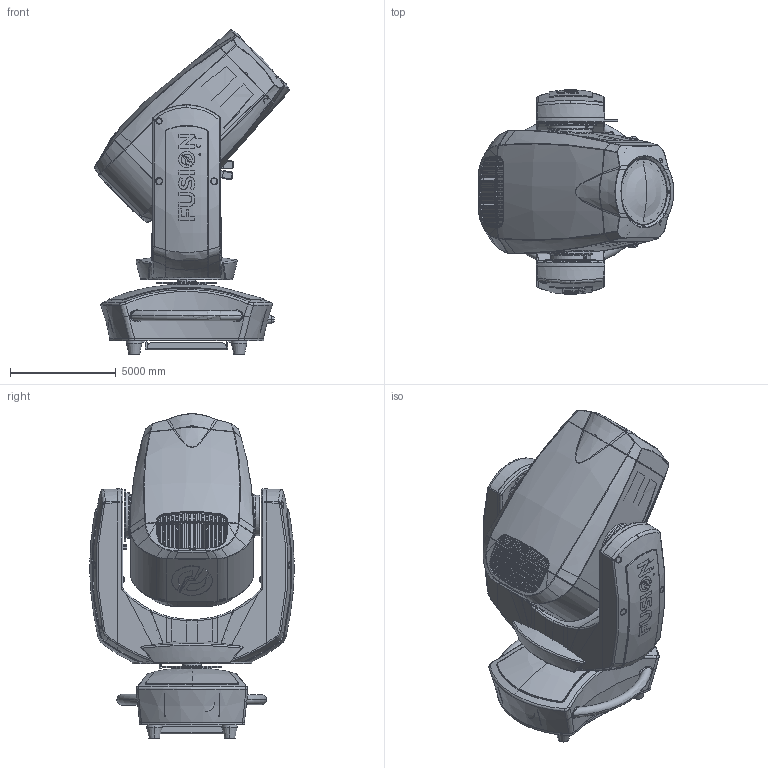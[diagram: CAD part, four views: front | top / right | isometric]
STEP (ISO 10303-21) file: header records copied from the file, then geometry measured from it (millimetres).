
FILE_DESCRIPTION((''),'2;1');
FILE_NAME('EXO_SPOT','2022-04-12T08:18:13',('mr'),(''),'CREO PARAMETRIC BY PTC INC, 2019080','CREO PARAMETRIC BY PTC INC, 2019080','');
FILE_SCHEMA(('AUTOMOTIVE_DESIGN { 1 0 10303 214 1 1 1 1 }'));
Length unit declared in the file: millimetre
Products named in the file (1): EXO_SPOT
Bounding box: 9233.18 x 9644.65 x 15309.45 mm (x, y, z)
Surface area: 1041181871.7 mm2 (no closed solid volume)
Topology: 0 solids, 122 shells, 2772 faces, 9329 edges, 6452 vertices
Faces by surface type: bspline 808, cylinder 801, plane 725, torus 222, cone 155, extrusion 47, sphere 12, revolution 2
Entity records: 145072 total; most frequent: CARTESIAN_POINT 74286, ORIENTED_EDGE 15498, DIRECTION 11923, EDGE_CURVE 9311, VERTEX_POINT 6452, AXIS2_PLACEMENT_3D 4416, B_SPLINE_CURVE_WITH_KNOTS 3833, VECTOR 3086
